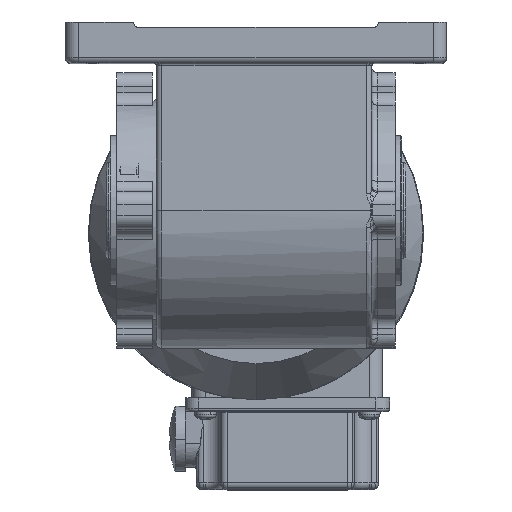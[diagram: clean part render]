
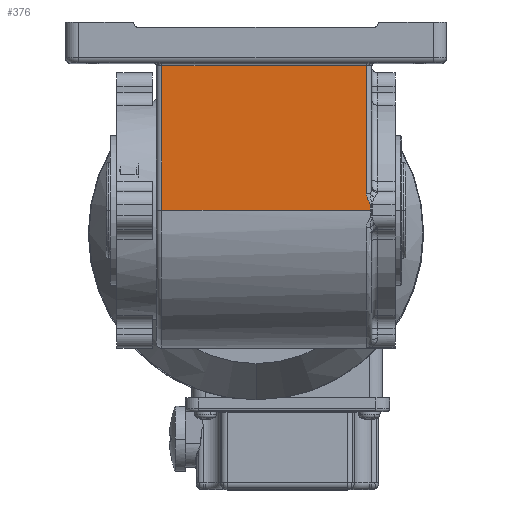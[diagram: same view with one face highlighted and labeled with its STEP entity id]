
A CAD part, top view. The second image highlights one B-rep face of the part: STEP entity #376.
In plain terms, the highlighted planar face has unit normal (0, 0, 1).
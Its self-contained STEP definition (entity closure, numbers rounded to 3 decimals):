
#376 = ADVANCED_FACE ( 'NONE', ( #13105 ), #15465, .F. ) ;
#388 = CARTESIAN_POINT ( 'NONE',  ( 42.5, 8., 88. ) ) ;
#671 = CARTESIAN_POINT ( 'NONE',  ( 40.5, 13.936, 88. ) ) ;
#793 = CARTESIAN_POINT ( 'NONE',  ( 40.515, 13.58, 88. ) ) ;
#1150 = AXIS2_PLACEMENT_3D ( 'NONE', #15646, #17693, #23274 ) ;
#2833 = CARTESIAN_POINT ( 'NONE',  ( 41.646, 10.826, 88. ) ) ;
#3107 = LINE ( 'NONE', #388, #19489 ) ;
#3160 = CARTESIAN_POINT ( 'NONE',  ( 41.928, 10., 88. ) ) ;
#3422 = EDGE_LOOP ( 'NONE', ( #31897, #11925, #10127, #6083, #4368, #28580 ) ) ;
#4034 = LINE ( 'NONE', #7081, #19830 ) ;
#4192 = EDGE_CURVE ( 'NONE', #31208, #23213, #31592, .T. ) ;
#4368 = ORIENTED_EDGE ( 'NONE', *, *, #4729, .F. ) ;
#4729 = EDGE_CURVE ( 'NONE', #19154, #23213, #3107, .T. ) ;
#5405 = VECTOR ( 'NONE', #5576, 1000. ) ;
#5576 = DIRECTION ( 'NONE',  ( 0., -1., 0. ) ) ;
#5655 = DIRECTION ( 'NONE',  ( -1., 0., 0. ) ) ;
#5776 = CARTESIAN_POINT ( 'NONE',  ( 41.928, 61., 88. ) ) ;
#5884 = CARTESIAN_POINT ( 'NONE',  ( 41.384, 11.287, 88. ) ) ;
#6083 = ORIENTED_EDGE ( 'NONE', *, *, #4192, .T. ) ;
#6169 = EDGE_CURVE ( 'NONE', #18304, #13428, #18274, .T. ) ;
#6926 = LINE ( 'NONE', #22248, #19286 ) ;
#7081 = CARTESIAN_POINT ( 'NONE',  ( 40.5, 61., 88. ) ) ;
#8246 = CARTESIAN_POINT ( 'NONE',  ( 41.839, 10.429, 88. ) ) ;
#8599 = CARTESIAN_POINT ( 'NONE',  ( -34.5, 61., 88. ) ) ;
#10127 = ORIENTED_EDGE ( 'NONE', *, *, #20461, .T. ) ;
#10801 = EDGE_CURVE ( 'NONE', #13428, #12130, #4034, .T. ) ;
#11925 = ORIENTED_EDGE ( 'NONE', *, *, #10801, .T. ) ;
#12130 = VERTEX_POINT ( 'NONE', #14108 ) ;
#13105 = FACE_OUTER_BOUND ( 'NONE', #3422, .T. ) ;
#13428 = VERTEX_POINT ( 'NONE', #671 ) ;
#14108 = CARTESIAN_POINT ( 'NONE',  ( 40.5, 61., 88. ) ) ;
#14660 = EDGE_CURVE ( 'NONE', #19154, #18304, #18701, .T. ) ;
#15465 = PLANE ( 'NONE',  #1150 ) ;
#15646 = CARTESIAN_POINT ( 'NONE',  ( 42.5, 61., 88. ) ) ;
#15772 = CARTESIAN_POINT ( 'NONE',  ( 40.89, 12.223, 88. ) ) ;
#16439 = CARTESIAN_POINT ( 'NONE',  ( 41.928, 10., 88. ) ) ;
#17474 = VECTOR ( 'NONE', #23934, 1000. ) ;
#17693 = DIRECTION ( 'NONE',  ( 0., 0., -1. ) ) ;
#18274 = B_SPLINE_CURVE_WITH_KNOTS ( 'NONE', 3,
 ( #16439, #21017, #31419, #24059, #8246, #28717, #2833, #5884, #26825, #15772, #21352, #29055, #31914, #793, #26147, #21518 ),
 .UNSPECIFIED., .F., .F.,
 ( 4, 2, 2, 2, 2, 2, 2, 4 ),
 ( 0., 0., 0.001, 0.001, 0.002, 0.003, 0.004, 0.004 ),
 .UNSPECIFIED. ) ;
#18304 = VERTEX_POINT ( 'NONE', #3160 ) ;
#18701 = LINE ( 'NONE', #5776, #17474 ) ;
#18812 = CARTESIAN_POINT ( 'NONE',  ( -34.5, 8., 88. ) ) ;
#19154 = VERTEX_POINT ( 'NONE', #32091 ) ;
#19286 = VECTOR ( 'NONE', #32818, 1000. ) ;
#19489 = VECTOR ( 'NONE', #5655, 1000. ) ;
#19830 = VECTOR ( 'NONE', #28043, 1000. ) ;
#20461 = EDGE_CURVE ( 'NONE', #12130, #31208, #6926, .T. ) ;
#21017 = CARTESIAN_POINT ( 'NONE',  ( 41.928, 10.089, 88. ) ) ;
#21352 = CARTESIAN_POINT ( 'NONE',  ( 40.753, 12.552, 88. ) ) ;
#21518 = CARTESIAN_POINT ( 'NONE',  ( 40.5, 13.936, 88. ) ) ;
#22248 = CARTESIAN_POINT ( 'NONE',  ( 42.5, 61., 88. ) ) ;
#23213 = VERTEX_POINT ( 'NONE', #18812 ) ;
#23274 = DIRECTION ( 'NONE',  ( 0., 1., 0. ) ) ;
#23934 = DIRECTION ( 'NONE',  ( 0., 1., 0. ) ) ;
#24059 = CARTESIAN_POINT ( 'NONE',  ( 41.87, 10.347, 88. ) ) ;
#25869 = CARTESIAN_POINT ( 'NONE',  ( -34.5, 61., 88. ) ) ;
#26147 = CARTESIAN_POINT ( 'NONE',  ( 40.5, 13.758, 88. ) ) ;
#26825 = CARTESIAN_POINT ( 'NONE',  ( 41.204, 11.591, 88. ) ) ;
#28043 = DIRECTION ( 'NONE',  ( 0., 1., 0. ) ) ;
#28580 = ORIENTED_EDGE ( 'NONE', *, *, #14660, .T. ) ;
#28717 = CARTESIAN_POINT ( 'NONE',  ( 41.732, 10.671, 88. ) ) ;
#29055 = CARTESIAN_POINT ( 'NONE',  ( 40.607, 13.059, 88. ) ) ;
#31208 = VERTEX_POINT ( 'NONE', #25869 ) ;
#31419 = CARTESIAN_POINT ( 'NONE',  ( 41.915, 10.178, 88. ) ) ;
#31592 = LINE ( 'NONE', #8599, #5405 ) ;
#31897 = ORIENTED_EDGE ( 'NONE', *, *, #6169, .T. ) ;
#31914 = CARTESIAN_POINT ( 'NONE',  ( 40.568, 13.231, 88. ) ) ;
#32091 = CARTESIAN_POINT ( 'NONE',  ( 41.928, 8., 88. ) ) ;
#32818 = DIRECTION ( 'NONE',  ( -1., 0., 0. ) ) ;
